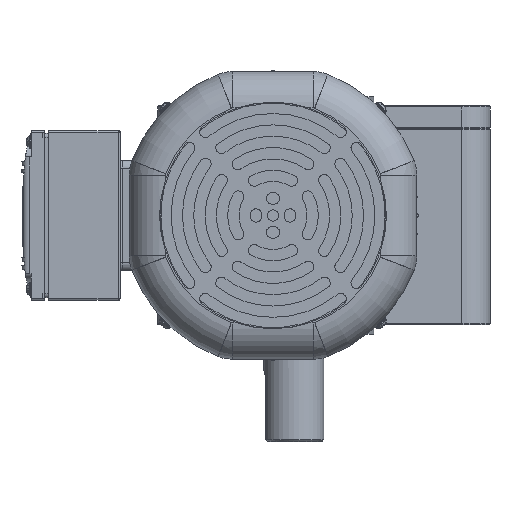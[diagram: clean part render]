
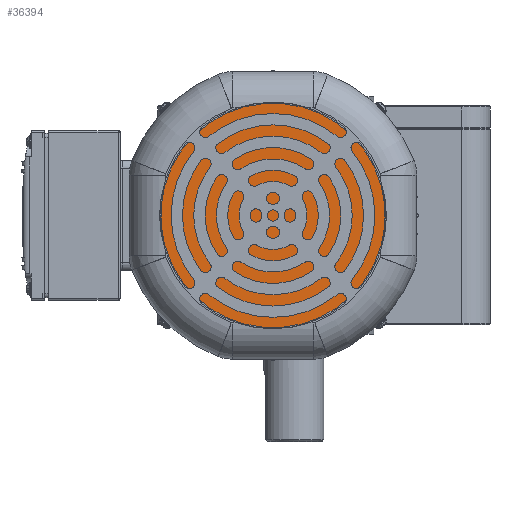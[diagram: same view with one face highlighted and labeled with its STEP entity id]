
A CAD part, left-side view. The second image highlights one B-rep face of the part: STEP entity #36394.
In plain terms, the highlighted planar face has unit normal (-1, 0, 0).
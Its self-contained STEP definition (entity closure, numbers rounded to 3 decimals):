
#1340=PLANE('',#40301);
#3236=FACE_OUTER_BOUND('',#5370,.T.);
#5370=EDGE_LOOP('',(#31202));
#7574=CIRCLE('',#40302,59.5);
#16414=VERTEX_POINT('',#65903);
#21433=EDGE_CURVE('',#16414,#16414,#7574,.T.);
#31202=ORIENTED_EDGE('',*,*,#21433,.F.);
#36394=ADVANCED_FACE('',(#3236),#1340,.F.);
#40301=AXIS2_PLACEMENT_3D('',#65902,#50408,#50409);
#40302=AXIS2_PLACEMENT_3D('',#65904,#50410,#50411);
#50408=DIRECTION('center_axis',(1.,0.,0.));
#50409=DIRECTION('ref_axis',(0.,-0.707,-0.707));
#50410=DIRECTION('center_axis',(1.,0.,0.));
#50411=DIRECTION('ref_axis',(0.,-0.707,-0.707));
#65902=CARTESIAN_POINT('Origin',(-368.2,11.,0.));
#65903=CARTESIAN_POINT('',(-368.2,53.073,42.073));
#65904=CARTESIAN_POINT('Origin',(-368.2,11.,0.));
